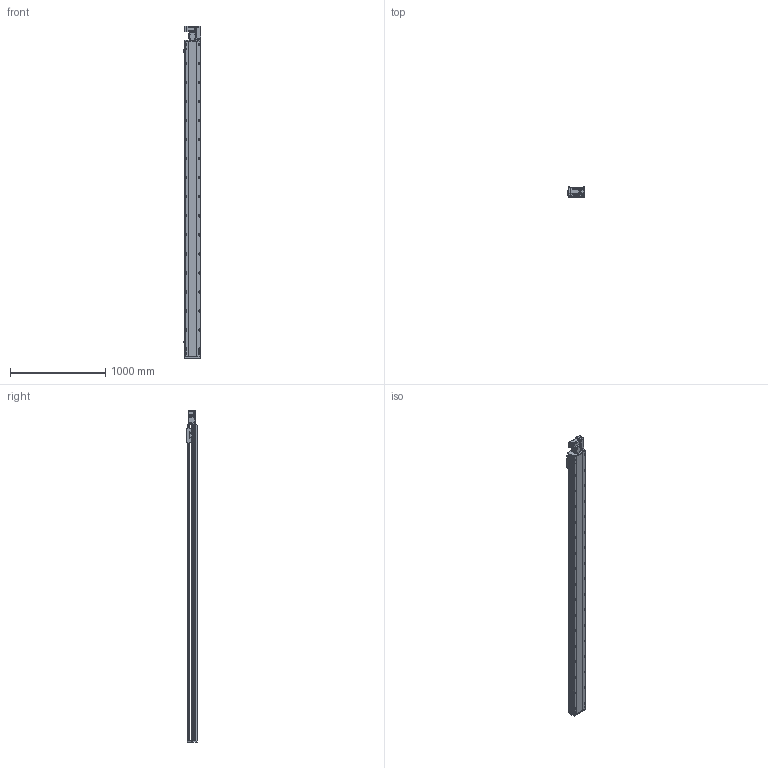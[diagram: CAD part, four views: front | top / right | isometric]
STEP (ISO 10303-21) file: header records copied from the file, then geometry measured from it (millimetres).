
FILE_DESCRIPTION (( 'STEP AP214' ), '1' );
FILE_NAME ('RTB17S-XX-3050-R-M40-C4.STEP', '2025-12-11T07:58:01', ( '' ), ( '' ), 'SwSTEP 2.0', 'SolidWorks 2018', '' );
FILE_SCHEMA (( 'AUTOMOTIVE_DESIGN' ));
Length unit declared in the file: millimetre
Products named in the file (14): RTB17S-L-007奻裔^RTB17S-XX-XX-R-M40-C4; RTH13-BL-012覜茼え俋离^RTB17S-XX-XX-R-M40-C4; RTB17S-XX-3050-R-M40-C4; OMRON EE-SX672 传感器^RTB17S-XX-XX-R-M40-C4; RTB17S-L-014-T20--々湍釱^RTB17S-R-々湍釱蚾饜-400W_RTB17S-XX-XX-R-M40-C4; RTB17-R-011菁釱^RTB17S-XX-XX-R-M40-C4; RTB17S-L-004佪裝蹟譫蟀諉釱^RTB17S-XX-XX-R-M40-C4; RTB17S-R-々湍釱蚾饜-400W^RTB17S-XX-XX-R-M40-C4; RTB17S-L-001耜醱啣^RTB17S-XX-XX-R-M40-C4; RTB14-L-008-M20--萇儂啣^RTB17S-R-々湍釱蚾饜-400W_RTB17S-XX-XX-R-M40-C4; RTB14-L-018P^RTB17S-R-々湍釱蚾饜-400W_RTB17S-XX-XX-R-M40-C4; RTB14-L-005P--轴承塑胶压盖^RTB17S-R-皮带座装配-400W_RTB17S-XX-XX-R-M40-C4; RTB14-L-017P^RTB17S-R-々湍釱蚾饜-400W_RTB17S-XX-XX-R-M40-C4; 400W侜督萇儂^RTB17S-XX-XX-R-M40-C4
Assembly tree (16 placements, depth 3):
  RTB17S-XX-3050-R-M40-C4
    RTB17-R-011菁釱^RTB17S-XX-XX-R-M40-C4
    RTB17S-L-007奻裔^RTB17S-XX-XX-R-M40-C4
    OMRON EE-SX672 传感器^RTB17S-XX-XX-R-M40-C4  x3
    RTB17S-L-001耜醱啣^RTB17S-XX-XX-R-M40-C4
    400W侜督萇儂^RTB17S-XX-XX-R-M40-C4
    RTB17S-L-004佪裝蹟譫蟀諉釱^RTB17S-XX-XX-R-M40-C4
    RTH13-BL-012覜茼え俋离^RTB17S-XX-XX-R-M40-C4
    RTB17S-R-々湍釱蚾饜-400W^RTB17S-XX-XX-R-M40-C4
      RTB17S-L-014-T20--々湍釱^RTB17S-R-々湍釱蚾饜-400W_RTB17S-XX-XX-R-M40-C4
      RTB14-L-005P--轴承塑胶压盖^RTB17S-R-皮带座装配-400W_RTB17S-XX-XX-R-M40-C4
      RTB14-L-008-M20--萇儂啣^RTB17S-R-々湍釱蚾饜-400W_RTB17S-XX-XX-R-M40-C4
      RTB14-L-017P^RTB17S-R-々湍釱蚾饜-400W_RTB17S-XX-XX-R-M40-C4  x2
      RTB14-L-018P^RTB17S-R-々湍釱蚾饜-400W_RTB17S-XX-XX-R-M40-C4
Bounding box: 183.5 x 108 x 3491 mm (x, y, z)
Volume: 29086677.9 mm3; surface area: 3322910.8 mm2
Topology: 15 solids, 15 shells, 2381 faces, 6681 edges, 4365 vertices
Faces by surface type: plane 1090, cylinder 843, bspline 301, cone 139, torus 8
Entity records: 71081 total; most frequent: CARTESIAN_POINT 20286, ORIENTED_EDGE 10206, DIRECTION 9386, EDGE_CURVE 5103, VERTEX_POINT 3353, AXIS2_PLACEMENT_3D 3283, LINE 2820, VECTOR 2820
